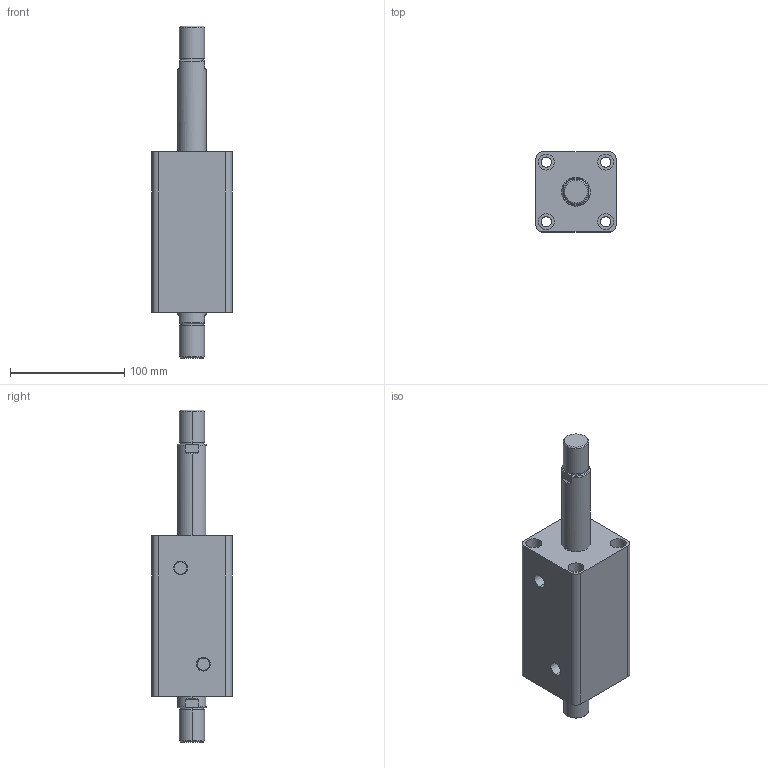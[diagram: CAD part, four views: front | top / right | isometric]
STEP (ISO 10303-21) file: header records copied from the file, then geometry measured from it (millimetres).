
FILE_DESCRIPTION (( 'STEP AP203' ), '1' );
FILE_NAME ('HTB-SW40-70W.STEP', '2019-10-07T09:11:20', ( '微软用户' ), ( '微软中国' ), 'SwSTEP 2.0', 'SolidWorks 2012', '' );
FILE_SCHEMA (( 'CONFIG_CONTROL_DESIGN' ));
Length unit declared in the file: millimetre
Products named in the file (3): HTB-SW40-70W; HTB-SW40-70W活塞杆; HTB-SW40-70掛极
Assembly tree (2 placements, depth 2):
  HTB-SW40-70W
    HTB-SW40-70掛极
    HTB-SW40-70W活塞杆
Bounding box: 70 x 70 x 290 mm (x, y, z)
Volume: 650169.4 mm3; surface area: 105749.1 mm2
Topology: 2 solids, 2 shells, 108 faces, 240 edges, 156 vertices
Faces by surface type: cylinder 52, plane 36, torus 12, cone 8
Entity records: 3449 total; most frequent: CARTESIAN_POINT 629, DIRECTION 586, ORIENTED_EDGE 480, AXIS2_PLACEMENT_3D 249, EDGE_CURVE 240, VERTEX_POINT 156, EDGE_LOOP 138, CIRCLE 136
